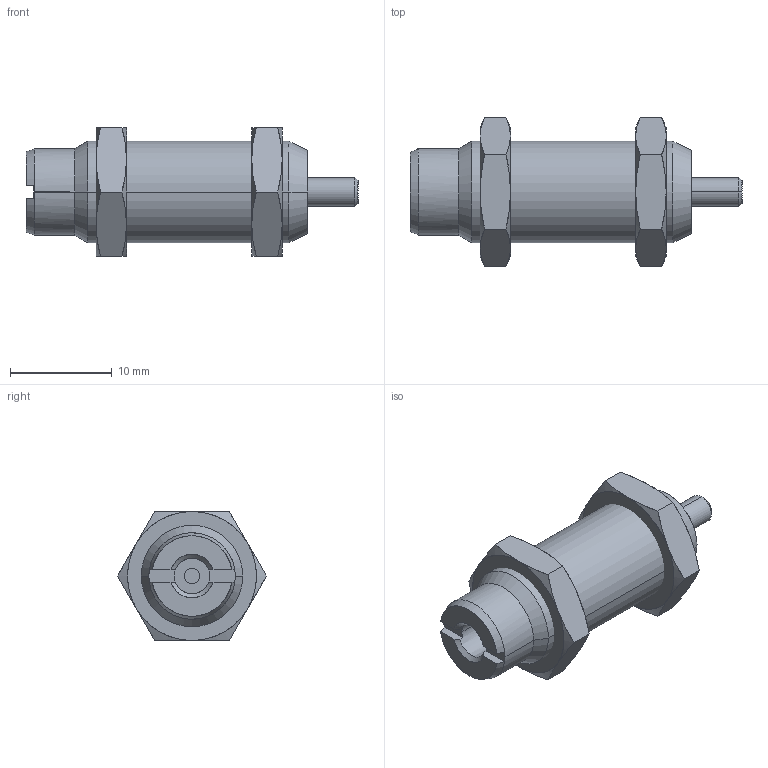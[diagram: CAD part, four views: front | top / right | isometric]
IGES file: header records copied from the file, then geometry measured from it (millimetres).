
Start section: SolidWorks IGES file using analytic representation for surfaces
Global section: file name: D:\IGS跡宒\AC1005-N.IGS,1; native system: 5HSolidWorks 2013; preprocessor: SolidWorks 2013; author: Administrator; date: 160406.151531; units: inch
Bounding box: 32.7 x 14.66 x 12.7 mm (x, y, z)
Surface area: 1742 mm2 (no closed solid volume)
Topology: 0 solids, 0 shells, 79 faces, 1141 edges, 1141 vertices
Faces by surface type: revolution 51, bspline 28
